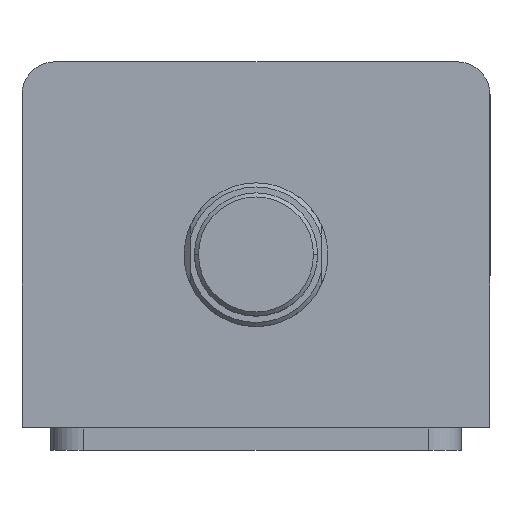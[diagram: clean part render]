
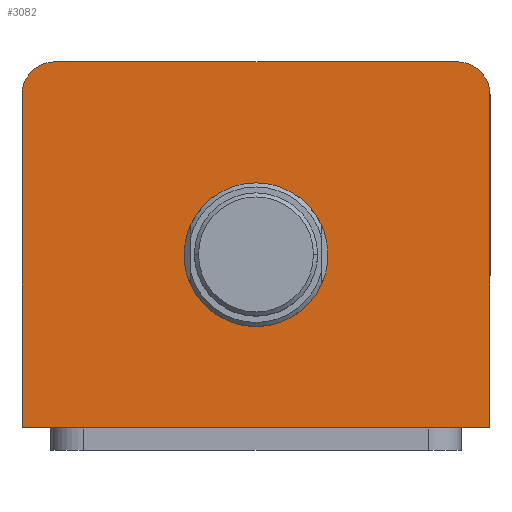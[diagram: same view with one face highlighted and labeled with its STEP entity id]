
A CAD part, top view. The second image highlights one B-rep face of the part: STEP entity #3082.
In plain terms, the highlighted planar face has unit normal (0, 0, 1).
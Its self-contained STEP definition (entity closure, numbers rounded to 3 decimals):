
#67 = VECTOR ( 'NONE', #3251, 1000. ) ;
#69 = LINE ( 'NONE', #3231, #67 ) ;
#87 = EDGE_CURVE ( 'NONE', #2727, #2730, #1302, .T. ) ;
#125 = ORIENTED_EDGE ( 'NONE', *, *, #725, .F. ) ;
#126 = ORIENTED_EDGE ( 'NONE', *, *, #722, .F. ) ;
#127 = ORIENTED_EDGE ( 'NONE', *, *, #87, .T. ) ;
#128 = ORIENTED_EDGE ( 'NONE', *, *, #2110, .T. ) ;
#129 = ORIENTED_EDGE ( 'NONE', *, *, #2114, .T. ) ;
#130 = ORIENTED_EDGE ( 'NONE', *, *, #731, .T. ) ;
#131 = ORIENTED_EDGE ( 'NONE', *, *, #1990, .T. ) ;
#132 = ORIENTED_EDGE ( 'NONE', *, *, #157, .T. ) ;
#157 = EDGE_CURVE ( 'NONE', #2715, #2727, #1474, .T. ) ;
#234 = AXIS2_PLACEMENT_3D ( 'NONE', #3325, #3319, #3318 ) ;
#425 = CIRCLE ( 'NONE', #696, 8. ) ;
#505 = DIRECTION ( 'NONE',  ( 0., 1., 0. ) ) ;
#508 = CARTESIAN_POINT ( 'NONE',  ( 57., 44.5, 102. ) ) ;
#696 = AXIS2_PLACEMENT_3D ( 'NONE', #3256, #3255, #3254 ) ;
#722 = EDGE_CURVE ( 'NONE', #2695, #2696, #1350, .T. ) ;
#725 = EDGE_CURVE ( 'NONE', #2696, #2695, #1343, .T. ) ;
#731 = EDGE_CURVE ( 'NONE', #2694, #2698, #1334, .T. ) ;
#879 = DIRECTION ( 'NONE',  ( 1., 0., 0. ) ) ;
#905 = DIRECTION ( 'NONE',  ( 1., 0., 0. ) ) ;
#917 = CARTESIAN_POINT ( 'NONE',  ( 0., -2.5, 102. ) ) ;
#923 = CARTESIAN_POINT ( 'NONE',  ( -57., -44.5, 102. ) ) ;
#935 = DIRECTION ( 'NONE',  ( 0., 0., 1. ) ) ;
#948 = DIRECTION ( 'NONE',  ( 1., 0., 0. ) ) ;
#949 = DIRECTION ( 'NONE',  ( 0., 0., 1. ) ) ;
#950 = CARTESIAN_POINT ( 'NONE',  ( 0., -2.5, 102. ) ) ;
#1102 = AXIS2_PLACEMENT_3D ( 'NONE', #917, #935, #905 ) ;
#1137 = AXIS2_PLACEMENT_3D ( 'NONE', #950, #949, #948 ) ;
#1197 = AXIS2_PLACEMENT_3D ( 'NONE', #1757, #1756, #1755 ) ;
#1302 = LINE ( 'NONE', #1737, #1305 ) ;
#1305 = VECTOR ( 'NONE', #1733, 1000. ) ;
#1334 = LINE ( 'NONE', #923, #1469 ) ;
#1343 = CIRCLE ( 'NONE', #1102, 17.5 ) ;
#1350 = CIRCLE ( 'NONE', #1137, 17.5 ) ;
#1469 = VECTOR ( 'NONE', #879, 1000. ) ;
#1474 = CIRCLE ( 'NONE', #1197, 8. ) ;
#1733 = DIRECTION ( 'NONE',  ( -1., 0., 0. ) ) ;
#1737 = CARTESIAN_POINT ( 'NONE',  ( -57., 44.5, 102. ) ) ;
#1755 = DIRECTION ( 'NONE',  ( 1., 0., 0. ) ) ;
#1756 = DIRECTION ( 'NONE',  ( 0., 0., 1. ) ) ;
#1757 = CARTESIAN_POINT ( 'NONE',  ( 49., 36.5, 102. ) ) ;
#1941 = VECTOR ( 'NONE', #505, 1000. ) ;
#1945 = LINE ( 'NONE', #508, #1941 ) ;
#1990 = EDGE_CURVE ( 'NONE', #2698, #2715, #1945, .T. ) ;
#2110 = EDGE_CURVE ( 'NONE', #2730, #2738, #425, .T. ) ;
#2114 = EDGE_CURVE ( 'NONE', #2738, #2694, #69, .T. ) ;
#2147 = FACE_BOUND ( 'NONE', #2853, .T. ) ;
#2155 = FACE_OUTER_BOUND ( 'NONE', #2862, .T. ) ;
#2694 = VERTEX_POINT ( 'NONE', #3071 ) ;
#2695 = VERTEX_POINT ( 'NONE', #3068 ) ;
#2696 = VERTEX_POINT ( 'NONE', #3067 ) ;
#2698 = VERTEX_POINT ( 'NONE', #3063 ) ;
#2715 = VERTEX_POINT ( 'NONE', #3020 ) ;
#2727 = VERTEX_POINT ( 'NONE', #3008 ) ;
#2730 = VERTEX_POINT ( 'NONE', #3005 ) ;
#2738 = VERTEX_POINT ( 'NONE', #2997 ) ;
#2853 = EDGE_LOOP ( 'NONE', ( #125, #126 ) ) ;
#2862 = EDGE_LOOP ( 'NONE', ( #127, #128, #129, #130, #131, #132 ) ) ;
#2997 = CARTESIAN_POINT ( 'NONE',  ( -57., 36.5, 102. ) ) ;
#3005 = CARTESIAN_POINT ( 'NONE',  ( -49., 44.5, 102. ) ) ;
#3008 = CARTESIAN_POINT ( 'NONE',  ( 49., 44.5, 102. ) ) ;
#3020 = CARTESIAN_POINT ( 'NONE',  ( 57., 36.5, 102. ) ) ;
#3063 = CARTESIAN_POINT ( 'NONE',  ( 57., -44.5, 102. ) ) ;
#3067 = CARTESIAN_POINT ( 'NONE',  ( 17.5, -2.5, 102. ) ) ;
#3068 = CARTESIAN_POINT ( 'NONE',  ( -17.5, -2.5, 102. ) ) ;
#3071 = CARTESIAN_POINT ( 'NONE',  ( -57., -44.5, 102. ) ) ;
#3082 = ADVANCED_FACE ( 'NONE', ( #2147, #2155 ), #3328, .T. ) ;
#3231 = CARTESIAN_POINT ( 'NONE',  ( -57., 44.5, 102. ) ) ;
#3251 = DIRECTION ( 'NONE',  ( 0., -1., 0. ) ) ;
#3254 = DIRECTION ( 'NONE',  ( 1., 0., 0. ) ) ;
#3255 = DIRECTION ( 'NONE',  ( 0., 0., 1. ) ) ;
#3256 = CARTESIAN_POINT ( 'NONE',  ( -49., 36.5, 102. ) ) ;
#3318 = DIRECTION ( 'NONE',  ( 1., 0., 0. ) ) ;
#3319 = DIRECTION ( 'NONE',  ( 0., 0., 1. ) ) ;
#3325 = CARTESIAN_POINT ( 'NONE',  ( 0., 0., 102. ) ) ;
#3328 = PLANE ( 'NONE',  #234 ) ;
